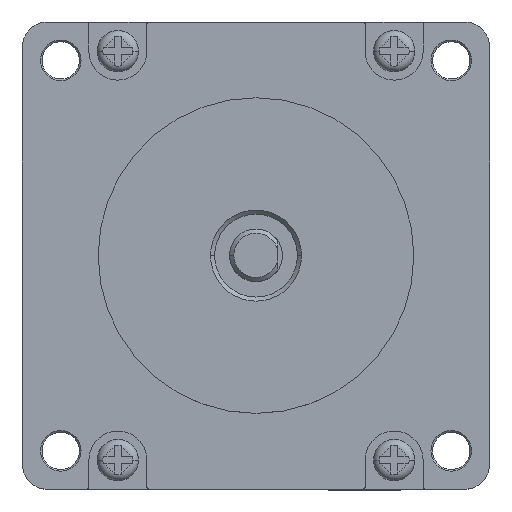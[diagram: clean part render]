
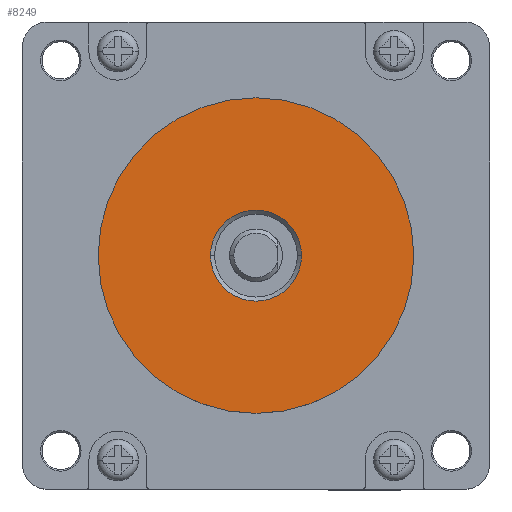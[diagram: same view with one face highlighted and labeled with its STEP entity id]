
A CAD part, top view. The second image highlights one B-rep face of the part: STEP entity #8249.
In plain terms, the highlighted planar face has unit normal (0, 0, 1).
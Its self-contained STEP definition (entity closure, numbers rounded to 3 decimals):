
#587 = EDGE_LOOP ( 'NONE', ( #6294, #6295 ) ) ;
#698 = CARTESIAN_POINT ( 'NONE',  ( 5.5, 0., 4.1 ) ) ;
#730 = CARTESIAN_POINT ( 'NONE',  ( -19.05, 0., 4.1 ) ) ;
#735 = CARTESIAN_POINT ( 'NONE',  ( -5.5, 0., 4.1 ) ) ;
#1439 = EDGE_CURVE ( 'NONE', #2485, #7791, #6668, .T. ) ;
#1450 = EDGE_CURVE ( 'NONE', #7755, #7796, #6684, .T. ) ;
#2485 = VERTEX_POINT ( 'NONE', #3261 ) ;
#3261 = CARTESIAN_POINT ( 'NONE',  ( 19.05, 0., 4.1 ) ) ;
#3675 = CARTESIAN_POINT ( 'NONE',  ( 0., 0., 4.1 ) ) ;
#3683 = DIRECTION ( 'NONE',  ( 0., 0., -1. ) ) ;
#3684 = DIRECTION ( 'NONE',  ( 1., 0., 0. ) ) ;
#3697 = CARTESIAN_POINT ( 'NONE',  ( 0., 0., 4.1 ) ) ;
#3698 = DIRECTION ( 'NONE',  ( 0., 0., 1. ) ) ;
#3699 = DIRECTION ( 'NONE',  ( 1., 0., 0. ) ) ;
#4486 = FACE_BOUND ( 'NONE', #4692, .T. ) ;
#4492 = FACE_OUTER_BOUND ( 'NONE', #587, .T. ) ;
#4692 = EDGE_LOOP ( 'NONE', ( #6292, #6293 ) ) ;
#4966 = CARTESIAN_POINT ( 'NONE',  ( 0., 0., 4.1 ) ) ;
#4967 = PLANE ( 'NONE',  #8458 ) ;
#4968 = DIRECTION ( 'NONE',  ( 0., 0., 1. ) ) ;
#4969 = DIRECTION ( 'NONE',  ( 1., 0., 0. ) ) ;
#5231 = DIRECTION ( 'NONE',  ( 1., 0., 0. ) ) ;
#5232 = DIRECTION ( 'NONE',  ( 0., 0., -1. ) ) ;
#5233 = CARTESIAN_POINT ( 'NONE',  ( 0., 0., 4.1 ) ) ;
#5266 = DIRECTION ( 'NONE',  ( 1., 0., 0. ) ) ;
#5267 = DIRECTION ( 'NONE',  ( 0., 0., 1. ) ) ;
#5269 = CARTESIAN_POINT ( 'NONE',  ( 0., 0., 4.1 ) ) ;
#5482 = AXIS2_PLACEMENT_3D ( 'NONE', #5269, #5267, #5266 ) ;
#5485 = AXIS2_PLACEMENT_3D ( 'NONE', #5233, #5232, #5231 ) ;
#5689 = AXIS2_PLACEMENT_3D ( 'NONE', #3675, #3683, #3684 ) ;
#5693 = AXIS2_PLACEMENT_3D ( 'NONE', #3697, #3698, #3699 ) ;
#5843 = EDGE_CURVE ( 'NONE', #7796, #7755, #7286, .T. ) ;
#5849 = EDGE_CURVE ( 'NONE', #7791, #2485, #7295, .T. ) ;
#6292 = ORIENTED_EDGE ( 'NONE', *, *, #1450, .T. ) ;
#6293 = ORIENTED_EDGE ( 'NONE', *, *, #5843, .T. ) ;
#6294 = ORIENTED_EDGE ( 'NONE', *, *, #5849, .T. ) ;
#6295 = ORIENTED_EDGE ( 'NONE', *, *, #1439, .T. ) ;
#6668 = CIRCLE ( 'NONE', #5482, 19.05 ) ;
#6684 = CIRCLE ( 'NONE', #5485, 5.5 ) ;
#7286 = CIRCLE ( 'NONE', #5689, 5.5 ) ;
#7295 = CIRCLE ( 'NONE', #5693, 19.05 ) ;
#7755 = VERTEX_POINT ( 'NONE', #698 ) ;
#7791 = VERTEX_POINT ( 'NONE', #730 ) ;
#7796 = VERTEX_POINT ( 'NONE', #735 ) ;
#8249 = ADVANCED_FACE ( 'NONE', ( #4486, #4492 ), #4967, .T. ) ;
#8458 = AXIS2_PLACEMENT_3D ( 'NONE', #4966, #4968, #4969 ) ;
